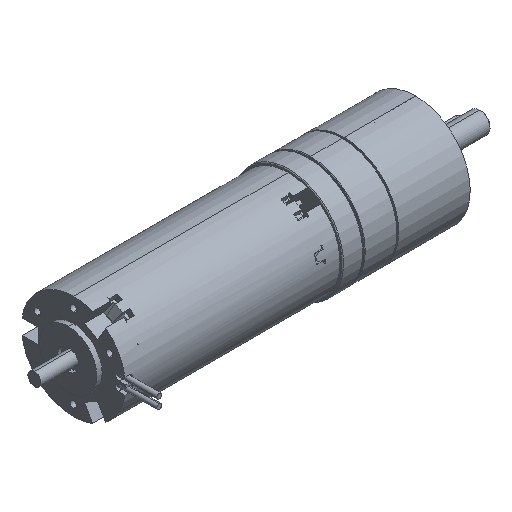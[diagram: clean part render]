
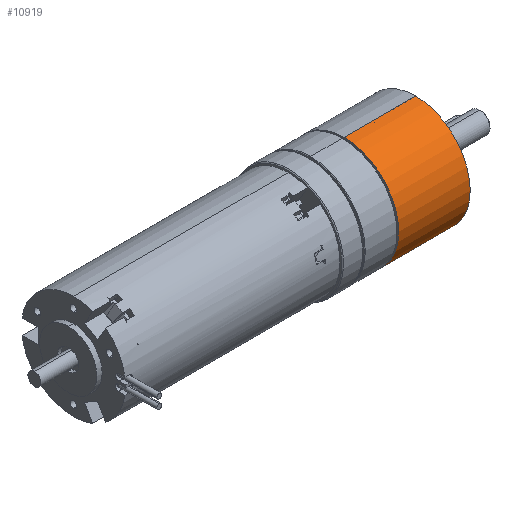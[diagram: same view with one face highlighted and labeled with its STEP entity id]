
A CAD part, isometric view. The second image highlights one B-rep face of the part: STEP entity #10919.
In plain terms, the highlighted cylindrical face has radius 21 mm (diameter 42 mm), a partial arc.
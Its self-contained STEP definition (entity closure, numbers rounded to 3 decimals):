
#999 = CARTESIAN_POINT ( 'NONE',  ( 25.5, 0., 0. ) ) ;
#1187 = DIRECTION ( 'NONE',  ( 1., 0., 0. ) ) ;
#2582 = CARTESIAN_POINT ( 'NONE',  ( 25.5, 0., -21. ) ) ;
#2595 = VERTEX_POINT ( 'NONE', #2582 ) ;
#2641 = ORIENTED_EDGE ( 'NONE', *, *, #40948, .F. ) ;
#3097 = VERTEX_POINT ( 'NONE', #40719 ) ;
#4423 = ORIENTED_EDGE ( 'NONE', *, *, #7565, .T. ) ;
#4622 = DIRECTION ( 'NONE',  ( 0., 0., -1. ) ) ;
#7565 = EDGE_CURVE ( 'NONE', #2595, #3097, #28550, .T. ) ;
#8251 = VECTOR ( 'NONE', #43008, 1000. ) ;
#9015 = VERTEX_POINT ( 'NONE', #41125 ) ;
#9250 = ORIENTED_EDGE ( 'NONE', *, *, #21607, .T. ) ;
#10157 = VECTOR ( 'NONE', #14582, 1000. ) ;
#10919 = ADVANCED_FACE ( 'NONE', ( #19150 ), #18065, .T. ) ;
#11727 = DIRECTION ( 'NONE',  ( 0., 0., -1. ) ) ;
#14336 = VERTEX_POINT ( 'NONE', #14690 ) ;
#14582 = DIRECTION ( 'NONE',  ( 1., 0., 0. ) ) ;
#14690 = CARTESIAN_POINT ( 'NONE',  ( -2., 0., 21. ) ) ;
#14963 = ORIENTED_EDGE ( 'NONE', *, *, #17125, .T. ) ;
#17125 = EDGE_CURVE ( 'NONE', #14336, #9015, #29802, .T. ) ;
#18065 = CYLINDRICAL_SURFACE ( 'NONE', #28570, 21. ) ;
#19150 = FACE_OUTER_BOUND ( 'NONE', #25023, .T. ) ;
#20308 = AXIS2_PLACEMENT_3D ( 'NONE', #999, #26148, #4622 ) ;
#20837 = LINE ( 'NONE', #43277, #10157 ) ;
#21514 = CARTESIAN_POINT ( 'NONE',  ( -3.475, 0., 21. ) ) ;
#21607 = EDGE_CURVE ( 'NONE', #9015, #2595, #20837, .T. ) ;
#22735 = CARTESIAN_POINT ( 'NONE',  ( -2., 0., 0. ) ) ;
#25023 = EDGE_LOOP ( 'NONE', ( #2641, #14963, #9250, #4423 ) ) ;
#26148 = DIRECTION ( 'NONE',  ( -1., 0., 0. ) ) ;
#26326 = DIRECTION ( 'NONE',  ( 0., 0., -1. ) ) ;
#27346 = LINE ( 'NONE', #21514, #8251 ) ;
#28550 = CIRCLE ( 'NONE', #20308, 21. ) ;
#28570 = AXIS2_PLACEMENT_3D ( 'NONE', #36796, #40441, #11727 ) ;
#29802 = CIRCLE ( 'NONE', #38702, 21. ) ;
#36796 = CARTESIAN_POINT ( 'NONE',  ( -3.475, 0., 0. ) ) ;
#38702 = AXIS2_PLACEMENT_3D ( 'NONE', #22735, #1187, #26326 ) ;
#40441 = DIRECTION ( 'NONE',  ( 1., 0., 0. ) ) ;
#40719 = CARTESIAN_POINT ( 'NONE',  ( 25.5, 0., 21. ) ) ;
#40948 = EDGE_CURVE ( 'NONE', #14336, #3097, #27346, .T. ) ;
#41125 = CARTESIAN_POINT ( 'NONE',  ( -2., 0., -21. ) ) ;
#43008 = DIRECTION ( 'NONE',  ( 1., 0., 0. ) ) ;
#43277 = CARTESIAN_POINT ( 'NONE',  ( -3.475, 0., -21. ) ) ;
